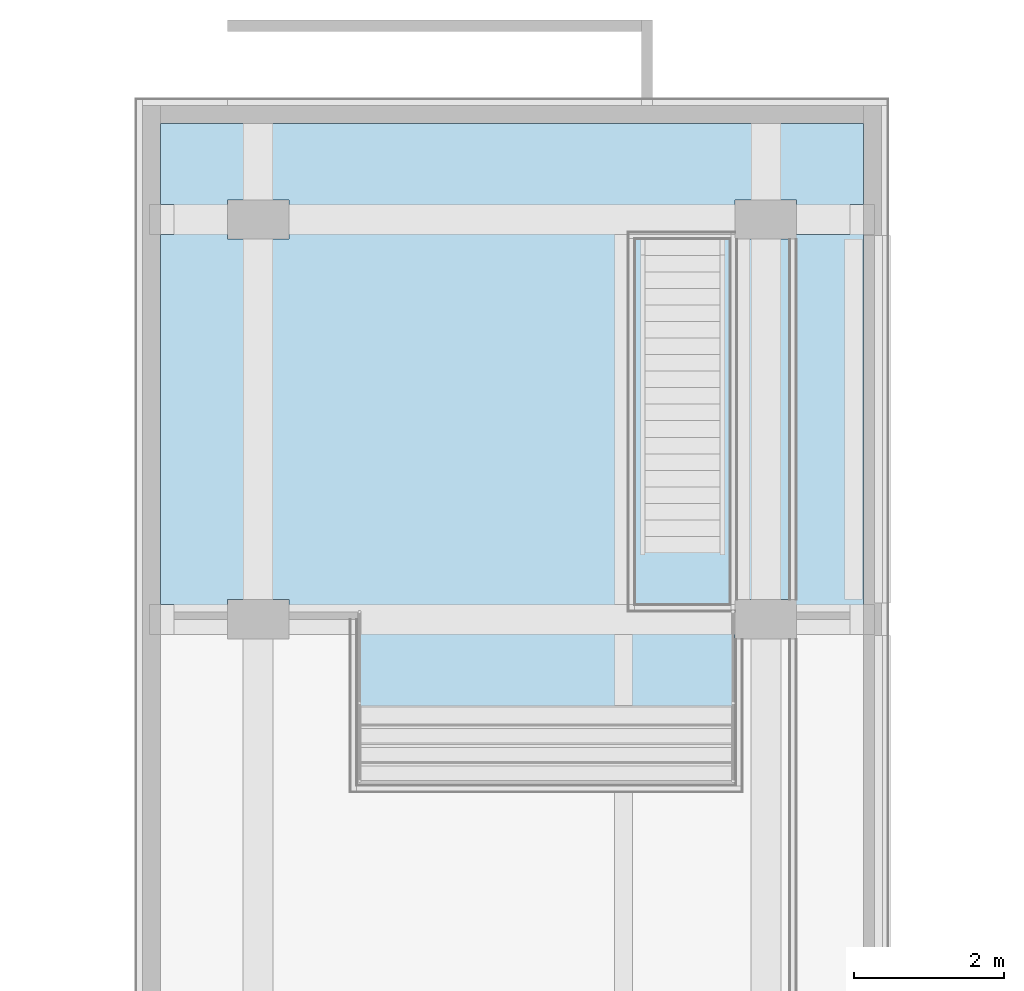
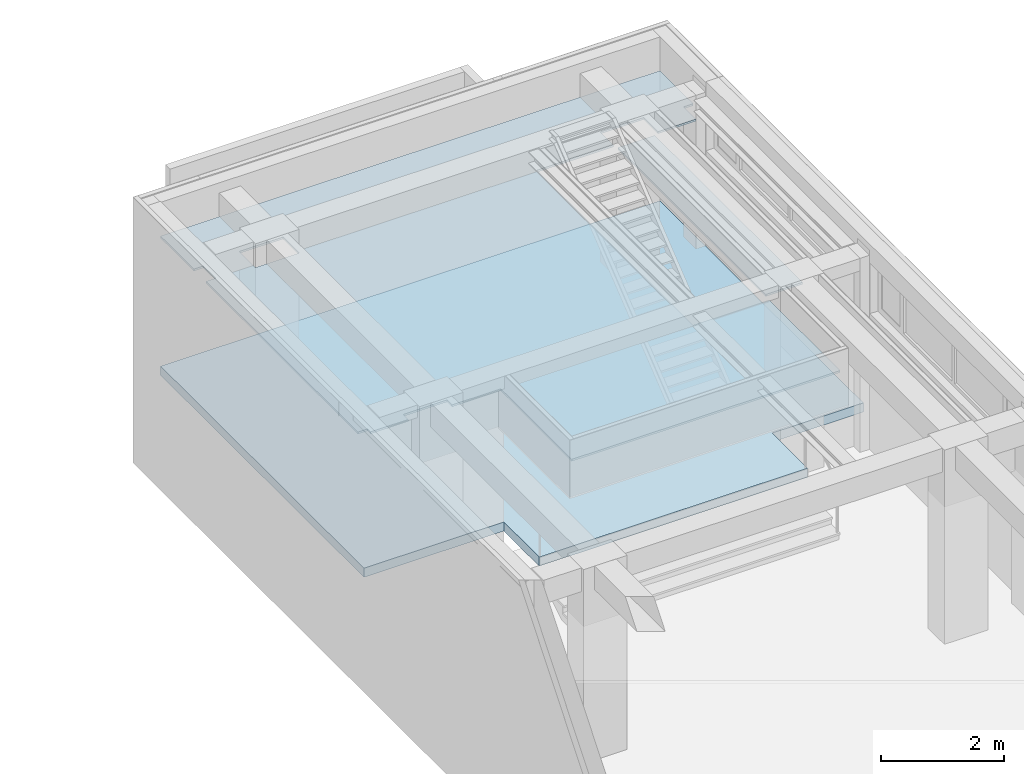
# One storey, part 74 of 135: 2 slabs.
"""IFC2X3 building model written with IfcOpenShell, lengths in millimetres."""

from ifc_helpers import new_model, entity, si_unit, converted_unit, derived_unit, money_unit, direction, frame, origin_with_axes, place, context, subcontext, project, spatial, faceted_brep, material, type_object, element, save


model = new_model("IFC2X3")

# Units and contexts
model_context = context("Model", 3, precision=0.01, world=origin_with_axes(), true_north=direction((0.0, 1.0)))
body_context = subcontext(model_context, "Body", "Model", "MODEL_VIEW")
ifc_project = project(units=[si_unit("LENGTHUNIT", "METRE", prefix="MILLI"), si_unit("AREAUNIT", "SQUARE_METRE"), si_unit("VOLUMEUNIT", "CUBIC_METRE"), converted_unit("PLANEANGLEUNIT", "DEGREE", entity("IfcPlaneAngleMeasure", 0.0174532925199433), si_unit("PLANEANGLEUNIT", "RADIAN"), dimensions=[0, 0, 0, 0, 0, 0, 0]), money_unit("EUR"), converted_unit("TIMEUNIT", "Year", entity("IfcTimeMeasure", 31557600.0), si_unit("TIMEUNIT", "SECOND"), dimensions=[0, 0, 1, 0, 0, 0, 0]), si_unit("MASSUNIT", "GRAM", prefix="KILO"), si_unit("THERMODYNAMICTEMPERATUREUNIT", "DEGREE_CELSIUS"), si_unit("LUMINOUSINTENSITYUNIT", "LUMEN"), si_unit("ENERGYUNIT", "JOULE", prefix="MEGA"), derived_unit("THERMALCONDUCTANCEUNIT", [(si_unit("POWERUNIT", "WATT"), 1), (si_unit("LENGTHUNIT", "METRE"), -1), (si_unit("THERMODYNAMICTEMPERATUREUNIT", "KELVIN"), -1)]), derived_unit("SPECIFICHEATCAPACITYUNIT", [(si_unit("ENERGYUNIT", "JOULE"), 1), (si_unit("MASSUNIT", "GRAM", prefix="KILO"), -1), (si_unit("THERMODYNAMICTEMPERATUREUNIT", "KELVIN"), -1)]), derived_unit("MASSDENSITYUNIT", [(si_unit("MASSUNIT", "GRAM", prefix="KILO"), 1), (si_unit("VOLUMEUNIT", "CUBIC_METRE"), -1)])], contexts=[model_context])

# Site, building, storey
site_placement = place(None, origin_with_axes())
site = spatial("IfcSite", under=ifc_project, at=site_placement, Name="Site", CompositionType="ELEMENT")
building_placement = place(site_placement, origin_with_axes())
building = spatial("IfcBuilding", under=site, at=building_placement, Name="Naam gebouw", CompositionType="ELEMENT")
storey_placement = place(building_placement, origin_with_axes())
storey = spatial("IfcBuildingStorey", under=building, at=storey_placement, Name="Begane grond N", CompositionType="ELEMENT", Elevation=0.0)

# Slabs
ifc_material_1 = material(Name="ALG - BINNENAFWERKING")
slab_type_1 = type_object("IfcSlabType", Name="ALG - BINNENAFWERKING 40", PredefinedType="NOTDEFINED")
slab_1_placement = place(storey_placement, frame((20536.0, 49475.91241458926, 3339.997968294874), z_axis=(0.0, 0.0, 1.0), x_axis=(1.0, 0.0, 0.0)))
element("IfcSlab", 1, at=slab_1_placement, inside=storey, type_object=slab_type_1, material=ifc_material_1, Name="_Vloer-x", PredefinedType="NOTDEFINED", context=body_context, shape_type="Brep", body=[
    faceted_brep([(8379.99997299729, 62.50003680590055, 0.0), (8379.99997299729, 4867.500010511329, 0.0), (8379.99997299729, 4867.500010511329, 40.00000000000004), (8379.99997299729, 62.50003680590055, 40.00000000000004), (7689.999995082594, 62.50003680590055, 0.0), (7689.999995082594, 4867.500010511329, 0.0), (7689.999995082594, 4867.500010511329, 40.00000000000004), (7689.999995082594, 62.50003680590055, 40.00000000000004)], [[[0, 1, 2, 3]], [[4, 5, 1, 0]], [[5, 6, 2, 1]], [[3, 2, 6, 7]], [[3, 7, 4, 0]], [[7, 6, 5, 4]]]),
    faceted_brep([(8479.999999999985, 5392.500010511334, 0.0), (7659.999999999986, 5392.500010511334, 0.0), (7659.999999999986, 4967.500010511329, 0.0), (6229.999999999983, 4967.500010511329, 0.0), (6229.999999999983, 4955.000010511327, 0.0), (6229.999999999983, -99.99998948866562, 0.0), (6242.499999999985, -99.99998948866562, 0.0), (7659.999992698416, -99.99998948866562, 0.0), (7659.999992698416, -2407.999998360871, 0.0), (2624.000022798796, -2407.999998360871, 0.0), (2624.000022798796, -99.99997511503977, 0.0), (1710.000007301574, -99.99997511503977, 0.0), (1710.000007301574, 62.50003680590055, 0.0), (890.0000438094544, 62.50003680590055, 0.0), (890.0000438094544, -99.99997511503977, 0.0), (180.0000669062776, -99.99997511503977, 0.0), (180.0000669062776, 0.0, 0.0), (0.0, 0.0, 0.0), (0.0, 4930.000071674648, 0.0), (180.0000669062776, 4930.000071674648, 0.0), (180.0000669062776, 5330.000111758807, 0.0), (0.0, 5330.000111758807, 0.0), (0.0, 6410.000094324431, 0.0), (9369.99999999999, 6410.000094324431, 0.0), (9369.99999999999, 5330.000111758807, 0.0), (9189.999933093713, 5330.000111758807, 0.0), (9189.999933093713, 4930.000071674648, 0.0), (8479.999999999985, 4930.000071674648, 0.0), (889.999999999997, 5392.500010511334, 0.0), (889.999999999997, 4867.500010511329, 0.0), (1709.999999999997, 4867.500010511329, 0.0), (1709.999999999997, 5392.500010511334, 0.0), (8479.999999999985, 5392.500010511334, 40.00000000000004), (7659.999999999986, 5392.500010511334, 40.00000000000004), (7659.999999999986, 4967.500010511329, 40.00000000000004), (6229.999999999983, 4967.500010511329, 40.00000000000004), (6229.999999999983, 4955.000010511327, 40.00000000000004), (6229.999999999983, -99.99998948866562, 40.00000000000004), (6242.499999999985, -99.99998948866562, 40.00000000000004), (7659.999992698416, -99.99998948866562, 40.00000000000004), (7659.999992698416, -2407.999998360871, 40.00000000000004), (2624.000022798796, -2407.999998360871, 40.00000000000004), (2624.000022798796, -99.99997511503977, 40.00000000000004), (1710.000007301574, -99.99997511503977, 40.00000000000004), (1710.000007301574, 62.50003680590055, 40.00000000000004), (890.0000438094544, 62.50003680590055, 40.00000000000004), (890.0000438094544, -99.99997511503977, 40.00000000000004), (180.0000669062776, -99.99997511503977, 40.00000000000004), (180.0000669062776, 0.0, 40.00000000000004), (0.0, 0.0, 40.00000000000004), (0.0, 4930.000071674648, 40.00000000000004), (180.0000669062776, 4930.000071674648, 40.00000000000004), (180.0000669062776, 5330.000111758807, 40.00000000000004), (0.0, 5330.000111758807, 40.00000000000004), (0.0, 6410.000094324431, 40.00000000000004), (9369.99999999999, 6410.000094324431, 40.00000000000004), (9369.99999999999, 5330.000111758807, 40.00000000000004), (9189.999933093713, 5330.000111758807, 40.00000000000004), (9189.999933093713, 4930.000071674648, 40.00000000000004), (8479.999999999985, 4930.000071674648, 40.00000000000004), (889.999999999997, 5392.500010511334, 40.00000000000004), (889.999999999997, 4867.500010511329, 40.00000000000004), (1709.999999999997, 4867.500010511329, 40.00000000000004), (1709.999999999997, 5392.500010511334, 40.00000000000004)], [[[0, 1, 2, 3, 4, 5, 6, 7, 8, 9, 10, 11, 12, 13, 14, 15, 16, 17, 18, 19, 20, 21, 22, 23, 24, 25, 26, 27], [28, 29, 30, 31]], [[0, 32, 33, 1]], [[1, 33, 34, 2]], [[3, 2, 34, 35]], [[4, 3, 35, 36]], [[36, 37, 5, 4]], [[6, 5, 37, 38]], [[39, 7, 6, 38]], [[39, 40, 8, 7]], [[9, 8, 40, 41]], [[10, 9, 41, 42]], [[11, 10, 42, 43]], [[12, 11, 43, 44]], [[13, 12, 44, 45]], [[14, 13, 45, 46]], [[15, 14, 46, 47]], [[16, 15, 47, 48]], [[17, 16, 48, 49]], [[18, 17, 49, 50]], [[19, 18, 50, 51]], [[20, 19, 51, 52]], [[21, 20, 52, 53]], [[22, 21, 53, 54]], [[23, 22, 54, 55]], [[24, 23, 55, 56]], [[25, 24, 56, 57]], [[26, 25, 57, 58]], [[58, 59, 27, 26]], [[27, 59, 32, 0]], [[28, 60, 61, 29]], [[29, 61, 62, 30]], [[30, 62, 63, 31]], [[31, 63, 60, 28]], [[35, 34, 33, 32, 59, 58, 57, 56, 55, 54, 53, 52, 51, 50, 49, 48, 47, 46, 45, 44, 43, 42, 41, 40, 39, 38, 37, 36], [62, 61, 60, 63]]]),
])
ifc_material_2 = material(Name="ALG - CONSTRUCTIEF VLOER")
slab_type_2 = type_object("IfcSlabType", Name="plateau 180 mm 180", PredefinedType="NOTDEFINED")
slab_2_placement = place(storey_placement, frame((20536.0, 49275.91242466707, 800.0), z_axis=(0.0, 0.0, 1.0), x_axis=(1.0, 0.0, 0.0)))
element("IfcSlab", 2, at=slab_2_placement, inside=storey, type_object=slab_type_2, material=ifc_material_2, Name="_Vloer-x", PredefinedType="NOTDEFINED", context=body_context, shape_type="Brep", body=[
    faceted_brep([(0.0, 0.0, 0.0), (0.0, 0.0, -179.9999999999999), (2624.000026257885, -3.048604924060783e-06, -179.9999999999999), (2624.000026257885, -3.048604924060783e-06, 0.0), (0.0, 6610.000000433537, 0.0), (0.0, 6610.000000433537, -179.9999999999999), (9369.999999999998, 6610.000000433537, -179.9999999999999), (9369.999999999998, 4.335305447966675e-07, -179.9999999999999), (7660.000000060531, 4.335305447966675e-07, -179.9999999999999), (7660.000000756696, -1150.000005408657, -179.9999999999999), (2624.00002695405, -1150.000008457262, -179.9999999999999), (2624.00002695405, -1150.000008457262, 0.0), (7660.000000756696, -1150.000005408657, 0.0), (7660.000000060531, 4.335305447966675e-07, 0.0), (9369.999999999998, 4.335305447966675e-07, 0.0), (9369.999999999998, 6610.000000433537, 0.0)], [[[0, 1, 2, 3]], [[4, 5, 1, 0]], [[2, 1, 5, 6, 7, 8, 9, 10]], [[3, 2, 10, 11]], [[4, 0, 3, 11, 12, 13, 14, 15]], [[15, 6, 5, 4]], [[14, 7, 6, 15]], [[13, 8, 7, 14]], [[12, 9, 8, 13]], [[11, 10, 9, 12]]]),
])

save(model, "model.ifc")
